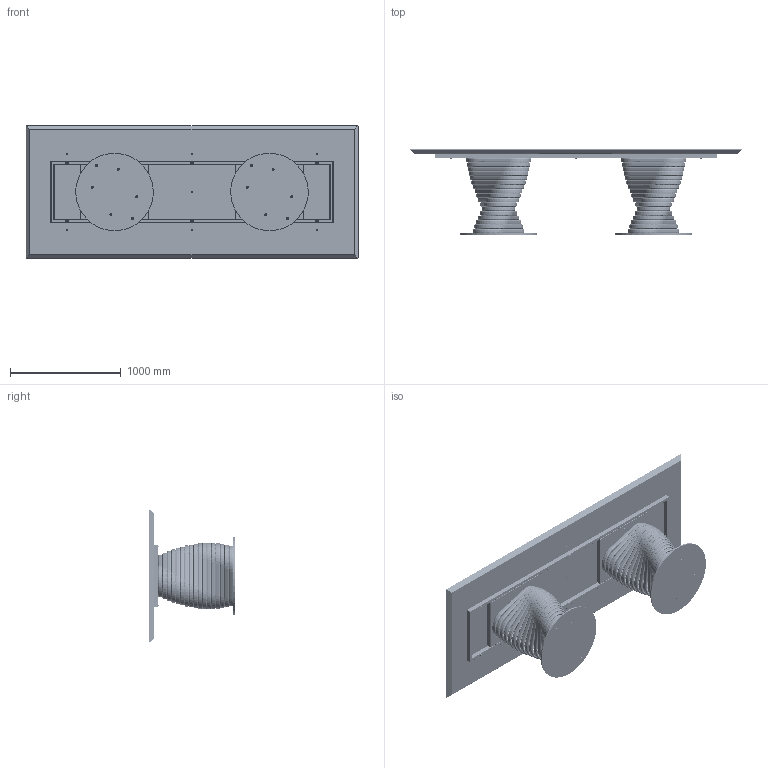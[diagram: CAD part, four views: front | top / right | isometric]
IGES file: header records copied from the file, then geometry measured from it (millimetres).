
Start section: SolidWorks IGES file using analytic representation for surfaces
Global section: file name: Y:\eforma\TECNICO\SOLIDWORKS\E-FORMA\1-TAVOLI\ROTOLO\02 parts\RO24W.IGS; native system: SolidWorks 2022; preprocessor: SolidWorks 2022; author: eforma.tech; date: 240807.151856; units: millimetre
Bounding box: 3000 x 770 x 1200 mm (x, y, z)
Volume: 155339394.3 mm3; surface area: 21904915.3 mm2
Topology: 182 solids, 182 shells, 3100 faces, 7302 edges, 4495 vertices
Faces by surface type: revolution 1862, plane 1238
